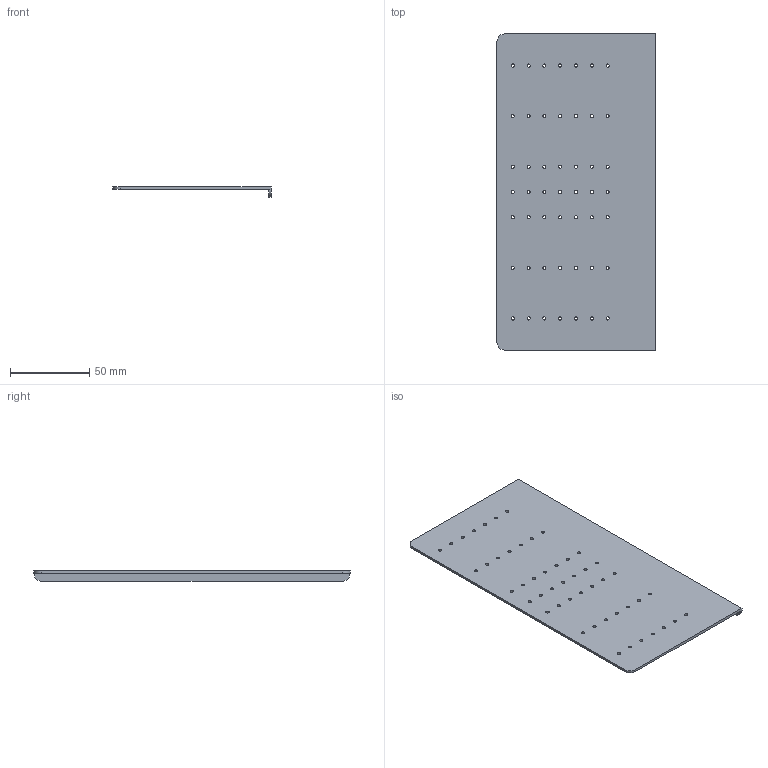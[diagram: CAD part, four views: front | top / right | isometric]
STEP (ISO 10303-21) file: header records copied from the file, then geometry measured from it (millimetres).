
FILE_DESCRIPTION(('CATIA V5 STEP','CAx-IF Rec.Pracs.--- Model Styling and Organization---1.5--- 2016-08-15','CAx-IF Rec.Pracs.---Supplemental Geometry---1.0---2011-11-01','CAx-IF Rec.Pracs.--- Composite Materials ---1.1---2010-07-15'),'2;1');
FILE_NAME('P:\Pu2kue\Küchensysteme\System wertig\König\KICKBOX\3D-Druck Modelle\Griffschablone.stp','2021-11-05T13:05:57+00:00',('none'),('none'),'CATIA Version 5-6 Release 2020 SP4','CATIA V5 STEP AP214 v2','none');
FILE_SCHEMA(('AUTOMOTIVE_DESIGN { 1 0 10303 214 1 1 1 1 }'));
Length unit declared in the file: millimetre
Products named in the file (1): Griffschablone
Bounding box: 100 x 200 x 6.5 mm (x, y, z)
Volume: 31236.9 mm3; surface area: 43013.1 mm2
Topology: 1 solids, 1 shells, 110 faces, 325 edges, 221 vertices
Faces by surface type: cylinder 102, plane 8
Entity records: 3618 total; most frequent: ORIENTED_EDGE 644, CARTESIAN_POINT 611, DIRECTION 453, EDGE_CURVE 322, AXIS2_PLACEMENT_3D 269, VERTEX_POINT 214, EDGE_LOOP 208, CIRCLE 204
